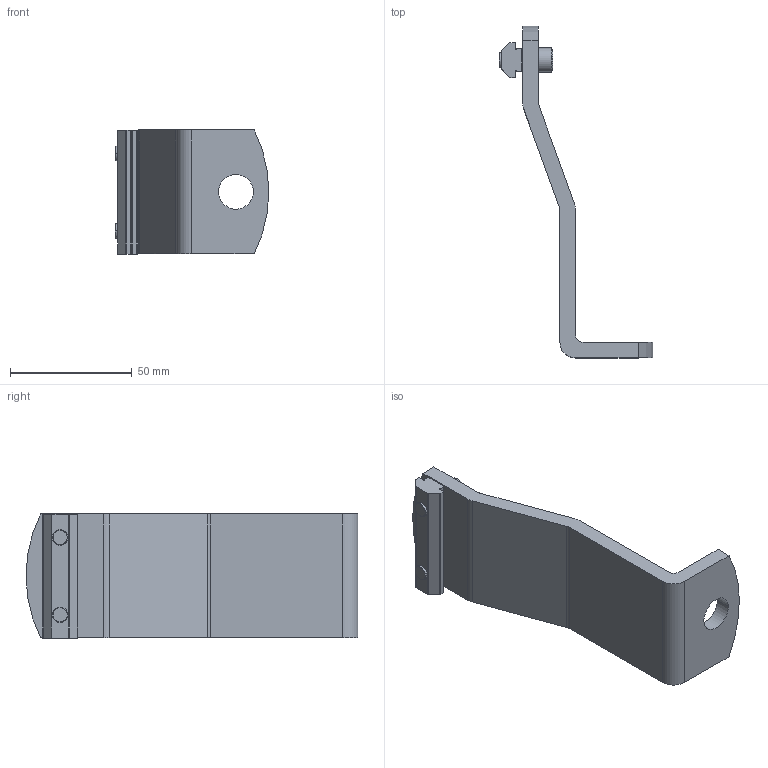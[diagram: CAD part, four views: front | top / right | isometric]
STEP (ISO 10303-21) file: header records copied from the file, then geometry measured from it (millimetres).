
FILE_DESCRIPTION((''),'2;1');
FILE_NAME('390217_ASM','2016-05-31T',('adam.dellomodarme'),(''),'PRO/ENGINEER BY PARAMETRIC TECHNOLOGY CORPORATION, 2012420','PRO/ENGINEER BY PARAMETRIC TECHNOLOGY CORPORATION, 2012420','');
FILE_SCHEMA(('CONFIG_CONTROL_DESIGN'));
Length unit declared in the file: inch
Products named in the file (2): BRACKET; 390217_ASM
Assembly tree (1 placements, depth 2):
  390217_ASM
    BRACKET
Bounding box: 63 x 136.14 x 50.93 mm (x, y, z)
Volume: 57864.6 mm3; surface area: 23195.5 mm2
Topology: 2 solids, 2 shells, 89 faces, 227 edges, 150 vertices
Faces by surface type: plane 44, cylinder 37, cone 8
Entity records: 2796 total; most frequent: DIRECTION 497, CARTESIAN_POINT 469, ORIENTED_EDGE 454, EDGE_CURVE 227, AXIS2_PLACEMENT_3D 178, VERTEX_POINT 150, VECTOR 141, LINE 141
